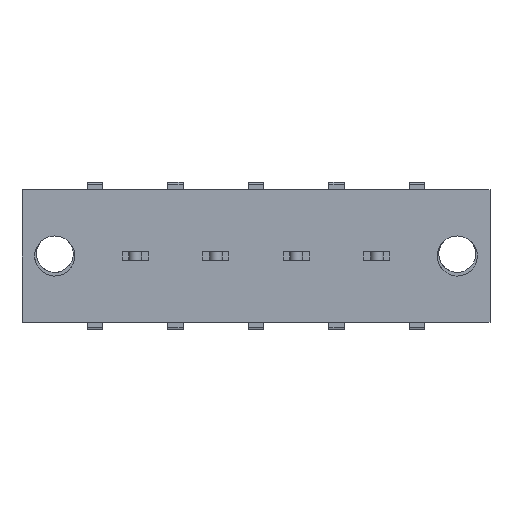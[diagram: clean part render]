
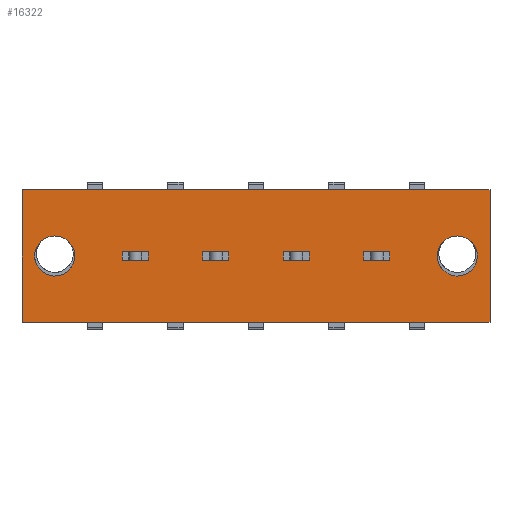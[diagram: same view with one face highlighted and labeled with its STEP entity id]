
A CAD part, front view. The second image highlights one B-rep face of the part: STEP entity #16322.
In plain terms, the highlighted planar face has unit normal (0, -1, 0).
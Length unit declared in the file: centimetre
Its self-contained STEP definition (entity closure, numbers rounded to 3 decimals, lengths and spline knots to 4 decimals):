
#780=PLANE('',#26616);
#1616=VECTOR('',#17593,1.);
#1815=VECTOR('',#18018,1.);
#1826=VECTOR('',#18038,1.);
#1840=VECTOR('',#18071,1.);
#1842=VECTOR('',#18074,1.);
#1891=VECTOR('',#18169,1.);
#1902=VECTOR('',#18183,1.);
#1903=VECTOR('',#18184,1.);
#1904=VECTOR('',#18185,1.);
#1905=VECTOR('',#18186,1.);
#1906=VECTOR('',#18187,1.);
#1907=VECTOR('',#18188,1.);
#1908=VECTOR('',#18189,1.);
#1909=VECTOR('',#18190,1.);
#1910=VECTOR('',#18191,1.);
#1911=VECTOR('',#18192,1.);
#1912=VECTOR('',#18193,1.);
#1913=VECTOR('',#18194,1.);
#1914=VECTOR('',#18195,1.);
#1915=VECTOR('',#18196,1.);
#3444=LINE('',#21813,#1616);
#3643=LINE('',#22437,#1815);
#3654=LINE('',#22464,#1826);
#3668=LINE('',#22500,#1840);
#3670=LINE('',#22504,#1842);
#3719=LINE('',#22625,#1891);
#3730=LINE('',#22648,#1902);
#3731=LINE('',#22651,#1903);
#3732=LINE('',#22653,#1904);
#3733=LINE('',#22655,#1905);
#3734=LINE('',#22656,#1906);
#3735=LINE('',#22659,#1907);
#3736=LINE('',#22661,#1908);
#3737=LINE('',#22663,#1909);
#3738=LINE('',#22664,#1910);
#3739=LINE('',#22667,#1911);
#3740=LINE('',#22669,#1912);
#3741=LINE('',#22671,#1913);
#3742=LINE('',#22672,#1914);
#3743=LINE('',#22674,#1915);
#5205=VERTEX_POINT('',#21812);
#5206=VERTEX_POINT('',#21814);
#5207=VERTEX_POINT('',#21818);
#5405=VERTEX_POINT('',#22438);
#5406=VERTEX_POINT('',#22439);
#5415=VERTEX_POINT('',#22465);
#5424=VERTEX_POINT('',#22501);
#5467=VERTEX_POINT('',#22626);
#5476=VERTEX_POINT('',#22647);
#5477=VERTEX_POINT('',#22649);
#5478=VERTEX_POINT('',#22650);
#5479=VERTEX_POINT('',#22652);
#5480=VERTEX_POINT('',#22654);
#5481=VERTEX_POINT('',#22657);
#5482=VERTEX_POINT('',#22658);
#5483=VERTEX_POINT('',#22660);
#5484=VERTEX_POINT('',#22662);
#5485=VERTEX_POINT('',#22665);
#5486=VERTEX_POINT('',#22666);
#5487=VERTEX_POINT('',#22668);
#5488=VERTEX_POINT('',#22670);
#5489=VERTEX_POINT('',#22673);
#6460=CIRCLE('',#26417,0.19);
#6530=CIRCLE('',#26617,0.19);
#7250=EDGE_CURVE('',#5206,#5205,#3444,.T.);
#7252=EDGE_CURVE('',#5207,#5207,#6460,.T.);
#7537=EDGE_CURVE('',#5405,#5406,#3643,.T.);
#7552=EDGE_CURVE('',#5415,#5405,#3654,.T.);
#7570=EDGE_CURVE('',#5424,#5415,#3668,.T.);
#7572=EDGE_CURVE('',#5406,#5424,#3670,.T.);
#7632=EDGE_CURVE('',#5467,#5205,#3719,.T.);
#7643=EDGE_CURVE('',#5476,#5476,#6530,.T.);
#7644=EDGE_CURVE('',#5477,#5478,#3730,.T.);
#7645=EDGE_CURVE('',#5478,#5479,#3731,.T.);
#7646=EDGE_CURVE('',#5479,#5480,#3732,.T.);
#7647=EDGE_CURVE('',#5480,#5477,#3733,.T.);
#7648=EDGE_CURVE('',#5481,#5482,#3734,.T.);
#7649=EDGE_CURVE('',#5482,#5483,#3735,.T.);
#7650=EDGE_CURVE('',#5483,#5484,#3736,.T.);
#7651=EDGE_CURVE('',#5484,#5481,#3737,.T.);
#7652=EDGE_CURVE('',#5485,#5486,#3738,.T.);
#7653=EDGE_CURVE('',#5486,#5487,#3739,.T.);
#7654=EDGE_CURVE('',#5487,#5488,#3740,.T.);
#7655=EDGE_CURVE('',#5488,#5485,#3741,.T.);
#7656=EDGE_CURVE('',#5489,#5206,#3742,.T.);
#7657=EDGE_CURVE('',#5489,#5467,#3743,.T.);
#10935=ORIENTED_EDGE('',*,*,#7252,.T.);
#10936=ORIENTED_EDGE('',*,*,#7643,.T.);
#10937=ORIENTED_EDGE('',*,*,#7552,.F.);
#10938=ORIENTED_EDGE('',*,*,#7570,.F.);
#10939=ORIENTED_EDGE('',*,*,#7572,.F.);
#10940=ORIENTED_EDGE('',*,*,#7537,.F.);
#10941=ORIENTED_EDGE('',*,*,#7644,.T.);
#10942=ORIENTED_EDGE('',*,*,#7645,.T.);
#10943=ORIENTED_EDGE('',*,*,#7646,.T.);
#10944=ORIENTED_EDGE('',*,*,#7647,.T.);
#10945=ORIENTED_EDGE('',*,*,#7648,.T.);
#10946=ORIENTED_EDGE('',*,*,#7649,.T.);
#10947=ORIENTED_EDGE('',*,*,#7650,.T.);
#10948=ORIENTED_EDGE('',*,*,#7651,.T.);
#10949=ORIENTED_EDGE('',*,*,#7652,.T.);
#10950=ORIENTED_EDGE('',*,*,#7653,.T.);
#10951=ORIENTED_EDGE('',*,*,#7654,.T.);
#10952=ORIENTED_EDGE('',*,*,#7655,.T.);
#10953=ORIENTED_EDGE('',*,*,#7656,.T.);
#10954=ORIENTED_EDGE('',*,*,#7250,.T.);
#10955=ORIENTED_EDGE('',*,*,#7632,.F.);
#10956=ORIENTED_EDGE('',*,*,#7657,.F.);
#14383=EDGE_LOOP('',(#10935));
#14384=EDGE_LOOP('',(#10936));
#14385=EDGE_LOOP('',(#10937,#10938,#10939,#10940));
#14386=EDGE_LOOP('',(#10941,#10942,#10943,#10944));
#14387=EDGE_LOOP('',(#10945,#10946,#10947,#10948));
#14388=EDGE_LOOP('',(#10949,#10950,#10951,#10952));
#14389=EDGE_LOOP('',(#10953,#10954,#10955,#10956));
#15369=FACE_BOUND('',#14383,.T.);
#15370=FACE_BOUND('',#14384,.T.);
#15371=FACE_BOUND('',#14385,.T.);
#15372=FACE_BOUND('',#14386,.T.);
#15373=FACE_BOUND('',#14387,.T.);
#15374=FACE_BOUND('',#14388,.T.);
#15375=FACE_BOUND('',#14389,.T.);
#16322=ADVANCED_FACE('',(#15369,#15370,#15371,#15372,#15373,#15374,#15375),
#780,.T.);
#17593=DIRECTION('',(0.,0.,1.));
#17597=DIRECTION('',(0.,1.,0.));
#17598=DIRECTION('',(0.19,0.,0.));
#18018=DIRECTION('',(0.,0.,1.));
#18038=DIRECTION('',(1.,0.,0.));
#18071=DIRECTION('',(0.,0.,-1.));
#18074=DIRECTION('',(-1.,0.,0.));
#18169=DIRECTION('',(1.,0.,0.));
#18180=DIRECTION('',(0.,-1.,0.));
#18181=DIRECTION('',(0.,1.,0.));
#18182=DIRECTION('',(0.19,0.,0.));
#18183=DIRECTION('',(-1.,0.,0.));
#18184=DIRECTION('',(0.,0.,1.));
#18185=DIRECTION('',(1.,0.,0.));
#18186=DIRECTION('',(0.,0.,-1.));
#18187=DIRECTION('',(-1.,0.,0.));
#18188=DIRECTION('',(0.,0.,1.));
#18189=DIRECTION('',(1.,0.,0.));
#18190=DIRECTION('',(0.,0.,-1.));
#18191=DIRECTION('',(-1.,0.,0.));
#18192=DIRECTION('',(0.,0.,1.));
#18193=DIRECTION('',(1.,0.,0.));
#18194=DIRECTION('',(0.,0.,-1.));
#18195=DIRECTION('',(1.,0.,0.));
#18196=DIRECTION('',(0.,0.,1.));
#21812=CARTESIAN_POINT('',(3.048,0.,0.625));
#21813=CARTESIAN_POINT('',(3.048,0.,-0.625));
#21814=CARTESIAN_POINT('',(3.048,0.,-0.625));
#21817=CARTESIAN_POINT('',(2.738,0.,0.));
#21818=CARTESIAN_POINT('',(2.548,0.,0.));
#22437=CARTESIAN_POINT('',(-0.185,0.,0.));
#22438=CARTESIAN_POINT('',(-0.185,0.,-0.04));
#22439=CARTESIAN_POINT('',(-0.185,0.,0.04));
#22464=CARTESIAN_POINT('',(-0.465,0.,-0.04));
#22465=CARTESIAN_POINT('',(-0.435,0.,-0.04));
#22500=CARTESIAN_POINT('',(-0.435,0.,0.));
#22501=CARTESIAN_POINT('',(-0.435,0.,0.04));
#22504=CARTESIAN_POINT('',(-0.465,0.,0.04));
#22625=CARTESIAN_POINT('',(-1.382,0.,0.625));
#22626=CARTESIAN_POINT('',(-1.382,0.,0.625));
#22645=CARTESIAN_POINT('',(0.,0.,0.));
#22646=CARTESIAN_POINT('',(-1.072,0.,0.));
#22647=CARTESIAN_POINT('',(-1.262,0.,0.));
#22648=CARTESIAN_POINT('',(0.988,0.,-0.04));
#22649=CARTESIAN_POINT('',(2.101,0.,-0.04));
#22650=CARTESIAN_POINT('',(1.851,0.,-0.04));
#22651=CARTESIAN_POINT('',(1.851,0.,0.));
#22652=CARTESIAN_POINT('',(1.851,0.,0.04));
#22653=CARTESIAN_POINT('',(0.988,0.,0.04));
#22654=CARTESIAN_POINT('',(2.101,0.,0.04));
#22655=CARTESIAN_POINT('',(2.101,0.,0.));
#22656=CARTESIAN_POINT('',(0.607,0.,-0.04));
#22657=CARTESIAN_POINT('',(1.339,0.,-0.04));
#22658=CARTESIAN_POINT('',(1.089,0.,-0.04));
#22659=CARTESIAN_POINT('',(1.089,0.,0.));
#22660=CARTESIAN_POINT('',(1.089,0.,0.04));
#22661=CARTESIAN_POINT('',(0.607,0.,0.04));
#22662=CARTESIAN_POINT('',(1.339,0.,0.04));
#22663=CARTESIAN_POINT('',(1.339,0.,0.));
#22664=CARTESIAN_POINT('',(0.226,0.,-0.04));
#22665=CARTESIAN_POINT('',(0.577,0.,-0.04));
#22666=CARTESIAN_POINT('',(0.327,0.,-0.04));
#22667=CARTESIAN_POINT('',(0.327,0.,0.));
#22668=CARTESIAN_POINT('',(0.327,0.,0.04));
#22669=CARTESIAN_POINT('',(0.226,0.,0.04));
#22670=CARTESIAN_POINT('',(0.577,0.,0.04));
#22671=CARTESIAN_POINT('',(0.577,0.,0.));
#22672=CARTESIAN_POINT('',(-1.382,0.,-0.625));
#22673=CARTESIAN_POINT('',(-1.382,0.,-0.625));
#22674=CARTESIAN_POINT('',(-1.382,0.,-0.625));
#26417=AXIS2_PLACEMENT_3D('',#21817,#17597,#17598);
#26616=AXIS2_PLACEMENT_3D('',#22645,#18180,$);
#26617=AXIS2_PLACEMENT_3D('',#22646,#18181,#18182);
